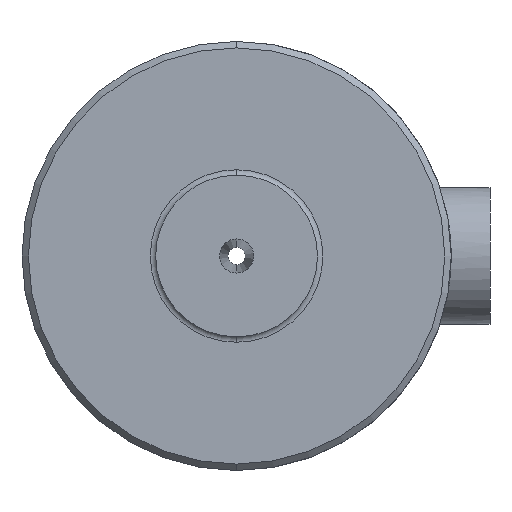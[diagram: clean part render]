
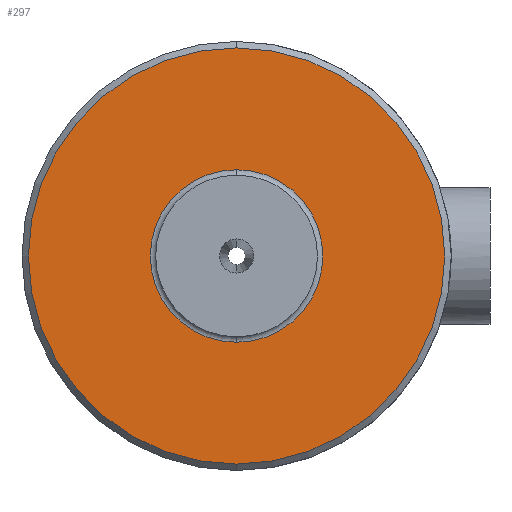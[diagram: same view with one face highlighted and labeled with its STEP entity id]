
A CAD part, front view. The second image highlights one B-rep face of the part: STEP entity #297.
In plain terms, the highlighted planar face has unit normal (0, -1, 0).
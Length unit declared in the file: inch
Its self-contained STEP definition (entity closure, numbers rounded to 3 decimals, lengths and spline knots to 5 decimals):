
#21 = EDGE_CURVE ( 'NONE', #23, #29, #359, .T. ) ;
#23 = VERTEX_POINT ( 'NONE', #354 ) ;
#29 = VERTEX_POINT ( 'NONE', #393 ) ;
#151 = EDGE_CURVE ( 'NONE', #152, #153, #695, .T. ) ;
#152 = VERTEX_POINT ( 'NONE', #690 ) ;
#153 = VERTEX_POINT ( 'NONE', #689 ) ;
#244 = EDGE_CURVE ( 'NONE', #29, #23, #887, .T. ) ;
#297 = ADVANCED_FACE ( 'NONE', ( #938, #937 ), #942, .T. ) ;
#298 = EDGE_LOOP ( 'NONE', ( #299, #300 ) ) ;
#299 = ORIENTED_EDGE ( 'NONE', *, *, #244, .T. ) ;
#300 = ORIENTED_EDGE ( 'NONE', *, *, #21, .T. ) ;
#301 = EDGE_LOOP ( 'NONE', ( #302, #303 ) ) ;
#302 = ORIENTED_EDGE ( 'NONE', *, *, #151, .F. ) ;
#303 = ORIENTED_EDGE ( 'NONE', *, *, #304, .F. ) ;
#304 = EDGE_CURVE ( 'NONE', #153, #152, #931, .T. ) ;
#354 = CARTESIAN_POINT ( 'NONE',  ( 0., -1., -0.4 ) ) ;
#355 = DIRECTION ( 'NONE',  ( 0., 0., 1. ) ) ;
#356 = DIRECTION ( 'NONE',  ( 0., 1., 0. ) ) ;
#357 = CARTESIAN_POINT ( 'NONE',  ( 0., -1., 0. ) ) ;
#358 = AXIS2_PLACEMENT_3D ( 'NONE', #357, #356, #355 ) ;
#359 = CIRCLE ( 'NONE', #358, 0.4 ) ;
#393 = CARTESIAN_POINT ( 'NONE',  ( 0., -1., 0.4 ) ) ;
#689 = CARTESIAN_POINT ( 'NONE',  ( 0., -1., -0.965 ) ) ;
#690 = CARTESIAN_POINT ( 'NONE',  ( 0., -1., 0.965 ) ) ;
#691 = DIRECTION ( 'NONE',  ( 0., 0., 1. ) ) ;
#692 = DIRECTION ( 'NONE',  ( 0., 1., 0. ) ) ;
#693 = CARTESIAN_POINT ( 'NONE',  ( 0., -1., 0. ) ) ;
#694 = AXIS2_PLACEMENT_3D ( 'NONE', #693, #692, #691 ) ;
#695 = CIRCLE ( 'NONE', #694, 0.965 ) ;
#880 = DIRECTION ( 'NONE',  ( 0., 0., 1. ) ) ;
#881 = DIRECTION ( 'NONE',  ( 0., 1., 0. ) ) ;
#882 = CARTESIAN_POINT ( 'NONE',  ( 0., -1., 0. ) ) ;
#883 = AXIS2_PLACEMENT_3D ( 'NONE', #882, #881, #880 ) ;
#887 = CIRCLE ( 'NONE', #883, 0.4 ) ;
#928 = DIRECTION ( 'NONE',  ( 0., 0., 1. ) ) ;
#929 = DIRECTION ( 'NONE',  ( 0., 1., 0. ) ) ;
#930 = AXIS2_PLACEMENT_3D ( 'NONE', #934, #929, #928 ) ;
#931 = CIRCLE ( 'NONE', #930, 0.965 ) ;
#932 = DIRECTION ( 'NONE',  ( 0., 0., -1. ) ) ;
#933 = DIRECTION ( 'NONE',  ( 0., -1., 0. ) ) ;
#934 = CARTESIAN_POINT ( 'NONE',  ( 0., -1., 0. ) ) ;
#935 = CARTESIAN_POINT ( 'NONE',  ( 0.965, -1., 0. ) ) ;
#936 = AXIS2_PLACEMENT_3D ( 'NONE', #935, #933, #932 ) ;
#937 = FACE_OUTER_BOUND ( 'NONE', #301, .T. ) ;
#938 = FACE_BOUND ( 'NONE', #298, .T. ) ;
#942 = PLANE ( 'NONE',  #936 ) ;
